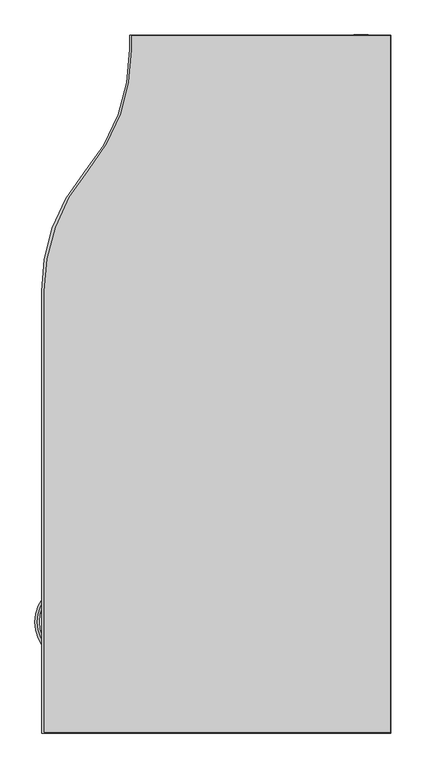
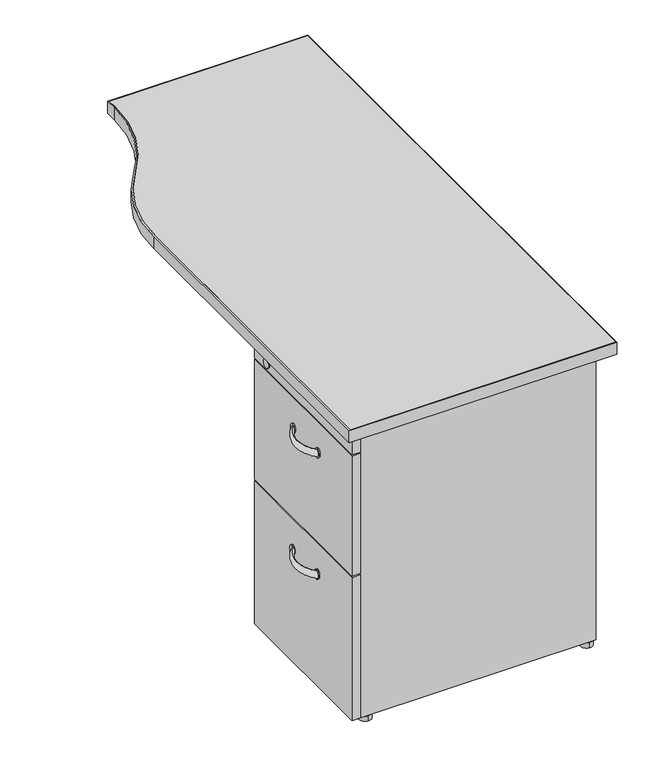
"""IFC4 building model written with IfcOpenShell, lengths in millimetres: furniture geometry, Steelcase - Kick Freestanding - Desk - Single Pedestal Transition Return - Partial Modesty Panel : 18D x 48W - Right - File/File."""

from ifc_helpers import new_model, si_unit, point, frame, frame_2d, origin, origin_with_axes, place, context, project, spatial, polyline, circle_curve, ellipse_curve, trimmed, segment, composite_curve, outline, extrude, source, transform, mapped, element, save
from ifc_brep_helpers import plane_surface, cylinder_surface, revolved_surface, extruded_surface, advanced_brep


def furniture_3ea152de(model_context):
    return source(origin(), model_context, "Body", "SolidModel", [
        advanced_brep(
        [(1567.1281641, -1621.6132511, 586.4818798), (1567.1281641, -1621.6132511, 569.2783404), (1567.7941808, -1522.4632386, 586.4818798), (1567.7941808, -1522.4632386, 569.2783404)],
        [
            (0, 1, ellipse_curve(frame((1567.1281641, -1621.6132511, 577.8801101), z_axis=(0.7327226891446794, -0.6805273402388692, 0.0), x_axis=(0.0, 0.0, -1.0)), 8.6017697, 3.6448177)),
            (1, 0, ellipse_curve(frame((1567.1281641, -1621.6132511, 577.8801101), z_axis=(0.7327226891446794, -0.6805273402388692, 0.0), x_axis=(0.0, 0.0, -1.0)), 8.6017697, 3.6448177)),
            (2, 3, ellipse_curve(frame((1567.7941808, -1522.4632386, 577.8801101), z_axis=(0.7417987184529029, 0.670622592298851, 0.0), x_axis=(0.0, 0.0, -1.0)), 8.6017697, 3.6448177)),
            (3, 2, ellipse_curve(frame((1567.7941808, -1522.4632386, 577.8801101), z_axis=(0.7417987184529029, 0.670622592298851, 0.0), x_axis=(0.0, 0.0, -1.0)), 8.6017697, 3.6448177)),
            (3, 1, circle_curve(frame((1612.8882961, -1572.3433908, 569.2783404), z_axis=(0.0, 0.0, 1.0), x_axis=(-0.6805273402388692, -0.7327226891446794, 0.0)), 67.2421655)),
            (0, 2, circle_curve(frame((1612.8882961, -1572.3433908, 586.4818798), z_axis=(0.0, 0.0, -1.0), x_axis=(-0.6805273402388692, -0.7327226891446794, 0.0)), 67.2421655)),
        ],
        [
            plane_surface(frame((1566.3645897, -1622.4353903, 0.0), z_axis=(0.7327226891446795, -0.6805273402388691, 0.0), x_axis=(0.0, 0.0, 1.0))),
            plane_surface(frame((1567.0417199, -1521.6309157, 0.0), z_axis=(0.7417987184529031, 0.6706225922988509, 0.0), x_axis=(0.0, 0.0, 1.0))),
            revolved_surface(trimmed(ellipse_curve(frame((1567.1281641, -1621.6132511, 577.8801101), z_axis=(0.7327226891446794, -0.6805273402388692, 0.0), x_axis=(0.0, 0.0, -1.0)), 8.6017697, 3.6448177), [point((1567.1281641, -1621.6132511, 586.4818798))], [point((1567.1281641, -1621.6132511, 569.2783404))], True, "CARTESIAN"), (1612.8882961, -1572.3433908, 0.0), (0.0, 0.0, -1.0)),
            revolved_surface(trimmed(ellipse_curve(frame((1567.1281641, -1621.6132511, 577.8801101), z_axis=(0.7327226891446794, -0.6805273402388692, 0.0), x_axis=(0.0, 0.0, -1.0)), 8.6017697, 3.6448177), [point((1567.1281641, -1621.6132511, 569.2783404))], [point((1567.1281641, -1621.6132511, 586.4818798))], True, "CARTESIAN"), (1612.8882961, -1572.3433908, 0.0), (0.0, 0.0, -1.0)),
        ],
        [
            (0, [[1, 2]]),
            (1, [[3, 4]]),
            (2, [[5, -1, 6, -4]]),
            (3, [[-6, -2, -5, -3]]),
        ],
    ),
        advanced_brep(
        [(1567.1281641, -1621.6132511, 293.5881298), (1567.1281641, -1621.6132511, 276.3845904), (1567.7941808, -1522.4632386, 293.5881298), (1567.7941808, -1522.4632386, 276.3845904)],
        [
            (0, 1, ellipse_curve(frame((1567.1281641, -1621.6132511, 284.9863601), z_axis=(0.7327226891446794, -0.6805273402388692, 0.0), x_axis=(0.0, 0.0, -1.0)), 8.6017697, 3.6448177)),
            (1, 0, ellipse_curve(frame((1567.1281641, -1621.6132511, 284.9863601), z_axis=(0.7327226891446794, -0.6805273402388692, 0.0), x_axis=(0.0, 0.0, -1.0)), 8.6017697, 3.6448177)),
            (2, 3, ellipse_curve(frame((1567.7941808, -1522.4632386, 284.9863601), z_axis=(0.7417987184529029, 0.670622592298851, 0.0), x_axis=(0.0, 0.0, -1.0)), 8.6017697, 3.6448177)),
            (3, 2, ellipse_curve(frame((1567.7941808, -1522.4632386, 284.9863601), z_axis=(0.7417987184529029, 0.670622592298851, 0.0), x_axis=(0.0, 0.0, -1.0)), 8.6017697, 3.6448177)),
            (3, 1, circle_curve(frame((1612.8882961, -1572.3433908, 276.3845904), z_axis=(0.0, 0.0, 1.0), x_axis=(-0.6805273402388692, -0.7327226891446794, 0.0)), 67.2421655)),
            (0, 2, circle_curve(frame((1612.8882961, -1572.3433908, 293.5881298), z_axis=(0.0, 0.0, -1.0), x_axis=(-0.6805273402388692, -0.7327226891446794, 0.0)), 67.2421655)),
        ],
        [
            plane_surface(frame((1566.3645897, -1622.4353903, 0.0), z_axis=(0.7327226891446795, -0.6805273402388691, 0.0), x_axis=(0.0, 0.0, 1.0))),
            plane_surface(frame((1567.0417199, -1521.6309157, 0.0), z_axis=(0.7417987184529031, 0.6706225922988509, 0.0), x_axis=(0.0, 0.0, 1.0))),
            revolved_surface(trimmed(ellipse_curve(frame((1567.1281641, -1621.6132511, 284.9863601), z_axis=(0.7327226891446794, -0.6805273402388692, 0.0), x_axis=(0.0, 0.0, -1.0)), 8.6017697, 3.6448177), [point((1567.1281641, -1621.6132511, 293.5881298))], [point((1567.1281641, -1621.6132511, 276.3845904))], True, "CARTESIAN"), (1612.8882961, -1572.3433908, 0.0), (0.0, 0.0, -1.0)),
            revolved_surface(trimmed(ellipse_curve(frame((1567.1281641, -1621.6132511, 284.9863601), z_axis=(0.7327226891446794, -0.6805273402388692, 0.0), x_axis=(0.0, 0.0, -1.0)), 8.6017697, 3.6448177), [point((1567.1281641, -1621.6132511, 276.3845904))], [point((1567.1281641, -1621.6132511, 293.5881298))], True, "CARTESIAN"), (1612.8882961, -1572.3433908, 0.0), (0.0, 0.0, -1.0)),
        ],
        [
            (0, [[1, 2]]),
            (1, [[3, 4]]),
            (2, [[5, -1, 6, -4]]),
            (3, [[-6, -2, -5, -3]]),
        ],
    ),
        advanced_brep(
        [(1564.8733086, -1429.0380273, 671.1566635), (1564.8733086, -1408.7180273, 671.1566635), (1567.9720601, -1429.0380273, 671.1566635), (1567.9720601, -1408.7180273, 671.1566635)],
        [
            (0, 1, circle_curve(frame((1564.8733086, -1418.8780273, 671.1566635), z_axis=(-1.0, 0.0, 0.0), x_axis=(0.0, 1.0, 0.0)), 10.16)),
            (1, 0, circle_curve(frame((1564.8733086, -1418.8780273, 671.1566635), z_axis=(-1.0, 0.0, 0.0), x_axis=(0.0, 1.0, 0.0)), 10.16)),
            (2, 3, circle_curve(frame((1567.9720601, -1418.8780273, 671.1566635), z_axis=(1.0, 0.0, 0.0), x_axis=(0.0, 1.0, 0.0)), 10.16)),
            (3, 2, circle_curve(frame((1567.9720601, -1418.8780273, 671.1566635), z_axis=(1.0, 0.0, 0.0), x_axis=(0.0, 1.0, 0.0)), 10.16)),
            (0, 2),
            (3, 1),
        ],
        [
            plane_surface(frame((1564.8733086, -1408.7180273, 671.1566635), z_axis=(-1.0, 0.0, 0.0), x_axis=(0.0, 0.0, -1.0))),
            plane_surface(frame((1567.9720601, -1408.7180273, 671.1566635), z_axis=(1.0, 0.0, 0.0), x_axis=(0.0, 0.0, 1.0))),
            cylinder_surface(frame((1567.9720601, -1418.8780273, 671.1566635), z_axis=(-1.0, 0.0, 0.0), x_axis=(0.0, 1.0, 0.0)), 10.16),
        ],
        [
            (0, [[1, 2]]),
            (1, [[3, 4]]),
            (2, [[-1, 5, -4, 6]]),
            (2, [[-2, -6, -3, -5]]),
        ],
    ),
        advanced_brep(
        [(1564.8733086, -1620.2140492, 589.4466513), (1564.8733086, -1620.2140492, 566.5866513), (1567.9720601, -1620.2140492, 589.4466513), (1567.9720601, -1620.2140492, 566.5866513)],
        [
            (0, 1, ellipse_curve(frame((1564.8733086, -1620.2140492, 578.0166513), z_axis=(-1.0, 0.0, 0.0), x_axis=(0.0, 0.0, -1.0)), 11.43, 8.0054005)),
            (1, 0, ellipse_curve(frame((1564.8733086, -1620.2140492, 578.0166513), z_axis=(-1.0, 0.0, 0.0), x_axis=(0.0, 0.0, -1.0)), 11.43, 8.0054005)),
            (2, 3, ellipse_curve(frame((1567.9720601, -1620.2140492, 578.0166513), z_axis=(1.0, 0.0, 0.0), x_axis=(0.0, 0.0, -1.0)), 11.43, 8.0054005)),
            (3, 2, ellipse_curve(frame((1567.9720601, -1620.2140492, 578.0166513), z_axis=(1.0, 0.0, 0.0), x_axis=(0.0, 0.0, -1.0)), 11.43, 8.0054005)),
            (0, 2),
            (3, 1),
        ],
        [
            plane_surface(frame((1564.8733086, -1408.7180273, 671.1566635), z_axis=(-1.0, 0.0, 0.0), x_axis=(0.0, 0.0, -1.0))),
            plane_surface(frame((1567.9720601, -1408.7180273, 671.1566635), z_axis=(1.0, 0.0, 0.0), x_axis=(0.0, 0.0, 1.0))),
            extruded_surface(trimmed(ellipse_curve(frame((1571.9598601, -1620.2140492, 578.0166513), z_axis=(-1.0, 0.0, 0.0), x_axis=(0.0, 0.0, -1.0)), 11.43, 8.0054005), [point((1571.9598601, -1620.2140492, 589.4466513))], [point((1571.9598601, -1620.2140492, 566.5866513))], True, "CARTESIAN"), (-3.098751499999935, 0.0, 0.0), 3.098751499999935),
            extruded_surface(trimmed(ellipse_curve(frame((1571.9598601, -1620.2140492, 578.0166513), z_axis=(-1.0, 0.0, 0.0), x_axis=(0.0, 0.0, -1.0)), 11.43, 8.0054005), [point((1571.9598601, -1620.2140492, 566.5866513))], [point((1571.9598601, -1620.2140492, 589.4466513))], True, "CARTESIAN"), (-3.098751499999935, 0.0, 0.0), 3.098751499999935),
        ],
        [
            (0, [[1, 2]]),
            (1, [[3, 4]]),
            (2, [[-1, 5, -4, 6]]),
            (3, [[-2, -6, -3, -5]]),
        ],
    ),
        advanced_brep(
        [(1564.8733086, -1522.8852323, 589.4466513), (1564.8733086, -1522.8852323, 566.5866513), (1567.9720601, -1522.8852323, 589.4466513), (1567.9720601, -1522.8852323, 566.5866513)],
        [
            (0, 1, ellipse_curve(frame((1564.8733086, -1522.8852323, 578.0166513), z_axis=(-1.0, 0.0, 0.0), x_axis=(0.0, 0.0, -1.0)), 11.43, 8.0054005)),
            (1, 0, ellipse_curve(frame((1564.8733086, -1522.8852323, 578.0166513), z_axis=(-1.0, 0.0, 0.0), x_axis=(0.0, 0.0, -1.0)), 11.43, 8.0054005)),
            (2, 3, ellipse_curve(frame((1567.9720601, -1522.8852323, 578.0166513), z_axis=(1.0, 0.0, 0.0), x_axis=(0.0, 0.0, -1.0)), 11.43, 8.0054005)),
            (3, 2, ellipse_curve(frame((1567.9720601, -1522.8852323, 578.0166513), z_axis=(1.0, 0.0, 0.0), x_axis=(0.0, 0.0, -1.0)), 11.43, 8.0054005)),
            (0, 2),
            (3, 1),
        ],
        [
            plane_surface(frame((1564.8733086, -1408.7180273, 671.1566635), z_axis=(-1.0, 0.0, 0.0), x_axis=(0.0, 0.0, -1.0))),
            plane_surface(frame((1567.9720601, -1408.7180273, 671.1566635), z_axis=(1.0, 0.0, 0.0), x_axis=(0.0, 0.0, 1.0))),
            extruded_surface(trimmed(ellipse_curve(frame((1571.9598601, -1522.8852323, 578.0166513), z_axis=(-1.0, 0.0, 0.0), x_axis=(0.0, 0.0, -1.0)), 11.43, 8.0054005), [point((1571.9598601, -1522.8852323, 589.4466513))], [point((1571.9598601, -1522.8852323, 566.5866513))], True, "CARTESIAN"), (-3.098751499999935, 0.0, 0.0), 3.098751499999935),
            extruded_surface(trimmed(ellipse_curve(frame((1571.9598601, -1522.8852323, 578.0166513), z_axis=(-1.0, 0.0, 0.0), x_axis=(0.0, 0.0, -1.0)), 11.43, 8.0054005), [point((1571.9598601, -1522.8852323, 566.5866513))], [point((1571.9598601, -1522.8852323, 589.4466513))], True, "CARTESIAN"), (-3.098751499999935, 0.0, 0.0), 3.098751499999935),
        ],
        [
            (0, [[1, 2]]),
            (1, [[3, 4]]),
            (2, [[-1, 5, -4, 6]]),
            (3, [[-2, -6, -3, -5]]),
        ],
    ),
        advanced_brep(
        [(1564.8733086, -1618.1551434, 296.0079573), (1564.8733086, -1618.1551434, 273.1479573), (1567.9720601, -1618.1551434, 296.0079573), (1567.9720601, -1618.1551434, 273.1479573)],
        [
            (0, 1, ellipse_curve(frame((1564.8733086, -1618.1551434, 284.5779573), z_axis=(-1.0, 0.0, 0.0), x_axis=(0.0, 0.0, -1.0)), 11.43, 8.0054005)),
            (1, 0, ellipse_curve(frame((1564.8733086, -1618.1551434, 284.5779573), z_axis=(-1.0, 0.0, 0.0), x_axis=(0.0, 0.0, -1.0)), 11.43, 8.0054005)),
            (2, 3, ellipse_curve(frame((1567.9720601, -1618.1551434, 284.5779573), z_axis=(1.0, 0.0, 0.0), x_axis=(0.0, 0.0, -1.0)), 11.43, 8.0054005)),
            (3, 2, ellipse_curve(frame((1567.9720601, -1618.1551434, 284.5779573), z_axis=(1.0, 0.0, 0.0), x_axis=(0.0, 0.0, -1.0)), 11.43, 8.0054005)),
            (0, 2),
            (3, 1),
        ],
        [
            plane_surface(frame((1564.8733086, -1408.7180273, 671.1566635), z_axis=(-1.0, 0.0, 0.0), x_axis=(0.0, 0.0, -1.0))),
            plane_surface(frame((1567.9720601, -1408.7180273, 671.1566635), z_axis=(1.0, 0.0, 0.0), x_axis=(0.0, 0.0, 1.0))),
            extruded_surface(trimmed(ellipse_curve(frame((1571.9598601, -1618.1551434, 284.5779573), z_axis=(-1.0, 0.0, 0.0), x_axis=(0.0, 0.0, -1.0)), 11.43, 8.0054005), [point((1571.9598601, -1618.1551434, 296.0079573))], [point((1571.9598601, -1618.1551434, 273.1479573))], True, "CARTESIAN"), (-3.098751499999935, 0.0, 0.0), 3.098751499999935),
            extruded_surface(trimmed(ellipse_curve(frame((1571.9598601, -1618.1551434, 284.5779573), z_axis=(-1.0, 0.0, 0.0), x_axis=(0.0, 0.0, -1.0)), 11.43, 8.0054005), [point((1571.9598601, -1618.1551434, 273.1479573))], [point((1571.9598601, -1618.1551434, 296.0079573))], True, "CARTESIAN"), (-3.098751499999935, 0.0, 0.0), 3.098751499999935),
        ],
        [
            (0, [[1, 2]]),
            (1, [[3, 4]]),
            (2, [[-1, 5, -4, 6]]),
            (3, [[-2, -6, -3, -5]]),
        ],
    ),
        advanced_brep(
        [(1564.8733086, -1520.8263266, 296.0079573), (1564.8733086, -1520.8263266, 273.1479573), (1567.9720601, -1520.8263266, 296.0079573), (1567.9720601, -1520.8263266, 273.1479573)],
        [
            (0, 1, ellipse_curve(frame((1564.8733086, -1520.8263266, 284.5779573), z_axis=(-1.0, 0.0, 0.0), x_axis=(0.0, 0.0, -1.0)), 11.43, 8.0054005)),
            (1, 0, ellipse_curve(frame((1564.8733086, -1520.8263266, 284.5779573), z_axis=(-1.0, 0.0, 0.0), x_axis=(0.0, 0.0, -1.0)), 11.43, 8.0054005)),
            (2, 3, ellipse_curve(frame((1567.9720601, -1520.8263266, 284.5779573), z_axis=(1.0, 0.0, 0.0), x_axis=(0.0, 0.0, -1.0)), 11.43, 8.0054005)),
            (3, 2, ellipse_curve(frame((1567.9720601, -1520.8263266, 284.5779573), z_axis=(1.0, 0.0, 0.0), x_axis=(0.0, 0.0, -1.0)), 11.43, 8.0054005)),
            (0, 2),
            (3, 1),
        ],
        [
            plane_surface(frame((1564.8733086, -1408.7180273, 671.1566635), z_axis=(-1.0, 0.0, 0.0), x_axis=(0.0, 0.0, -1.0))),
            plane_surface(frame((1567.9720601, -1408.7180273, 671.1566635), z_axis=(1.0, 0.0, 0.0), x_axis=(0.0, 0.0, 1.0))),
            extruded_surface(trimmed(ellipse_curve(frame((1571.9598601, -1520.8263266, 284.5779573), z_axis=(-1.0, 0.0, 0.0), x_axis=(0.0, 0.0, -1.0)), 11.43, 8.0054005), [point((1571.9598601, -1520.8263266, 296.0079573))], [point((1571.9598601, -1520.8263266, 273.1479573))], True, "CARTESIAN"), (-3.098751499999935, 0.0, 0.0), 3.098751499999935),
            extruded_surface(trimmed(ellipse_curve(frame((1571.9598601, -1520.8263266, 284.5779573), z_axis=(-1.0, 0.0, 0.0), x_axis=(0.0, 0.0, -1.0)), 11.43, 8.0054005), [point((1571.9598601, -1520.8263266, 273.1479573))], [point((1571.9598601, -1520.8263266, 296.0079573))], True, "CARTESIAN"), (-3.098751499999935, 0.0, 0.0), 3.098751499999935),
        ],
        [
            (0, [[1, 2]]),
            (1, [[3, 4]]),
            (2, [[-1, 5, -4, 6]]),
            (3, [[-2, -6, -3, -5]]),
        ],
    ),
        extrude(outline(polyline([(1567.9720601, -1752.7145982), (1567.9720601, -1367.7776054), (1587.9111086, -1367.7776054), (1587.9111086, -1752.7145982), (1567.9720601, -1752.7145982)])), frame((0.0, 0.0, 360.6545895), z_axis=(0.0, 0.0, 1.0), x_axis=(1.0, 0.0, 0.0)), (0.0, 0.0, 1.0), 288.9250242),
        extrude(outline(polyline([(1567.9720601, -1752.7145982), (1567.9720601, -1367.7776054), (1587.9111086, -1367.7776054), (1587.9111086, -1752.7145982), (1567.9720601, -1752.7145982)])), frame((0.0, 0.0, 12.7), z_axis=(0.0, 0.0, 1.0), x_axis=(1.0, 0.0, 0.0)), (0.0, 0.0, 1.0), 344.7796016),
        extrude(outline(polyline([(1567.9720601, -1752.7145982), (1567.9720601, -1367.7776054), (1587.9111086, -1367.7776054), (1587.9111086, -1752.7145982), (1567.9720601, -1752.7145982)])), frame((0.0, 0.0, 652.7545653), z_axis=(0.0, 0.0, 1.0), x_axis=(1.0, 0.0, 0.0)), (0.0, 0.0, 1.0), 40.6400339),
        extrude(outline(composite_curve([segment(trimmed(circle_curve(frame_2d((2110.0114425, -1740.1382652)), 13.97), [point((2110.0114425, -1754.1082652))], [point((2110.0114425, -1726.1682652))], False, "CARTESIAN"), True, "CONTINUOUS"), segment(trimmed(circle_curve(frame_2d((2110.0114425, -1740.1382652)), 13.97), [point((2110.0114425, -1726.1682652))], [point((2110.0114425, -1754.1082652))], False, "CARTESIAN"), True, "CONTINUOUS")], self_intersect=False)), origin_with_axes(), (0.0, 0.0, 1.0), 12.446),
        extrude(outline(composite_curve([segment(trimmed(circle_curve(frame_2d((1605.0594425, -1740.1382652)), 13.97), [point((1605.0594425, -1754.1082652))], [point((1605.0594425, -1726.1682652))], False, "CARTESIAN"), True, "CONTINUOUS"), segment(trimmed(circle_curve(frame_2d((1605.0594425, -1740.1382652)), 13.97), [point((1605.0594425, -1726.1682652))], [point((1605.0594425, -1754.1082652))], False, "CARTESIAN"), True, "CONTINUOUS")], self_intersect=False)), origin_with_axes(), (0.0, 0.0, 1.0), 12.446),
        extrude(outline(composite_curve([segment(trimmed(circle_curve(frame_2d((2110.0114425, -1380.4776054)), 13.97), [point((2110.0114425, -1394.4476054))], [point((2110.0114425, -1366.5076054))], False, "CARTESIAN"), True, "CONTINUOUS"), segment(trimmed(circle_curve(frame_2d((2110.0114425, -1380.4776054)), 13.97), [point((2110.0114425, -1366.5076054))], [point((2110.0114425, -1394.4476054))], False, "CARTESIAN"), True, "CONTINUOUS")], self_intersect=False)), origin_with_axes(), (0.0, 0.0, 1.0), 12.446),
        extrude(outline(composite_curve([segment(trimmed(circle_curve(frame_2d((1604.2584597, -1380.4776054)), 12.7), [point((1604.2584597, -1393.1776054))], [point((1604.2584597, -1367.7776054))], False, "CARTESIAN"), True, "CONTINUOUS"), segment(trimmed(circle_curve(frame_2d((1604.2584597, -1380.4776054)), 12.7), [point((1604.2584597, -1367.7776054))], [point((1604.2584597, -1393.1776054))], False, "CARTESIAN"), True, "CONTINUOUS")], self_intersect=False)), origin_with_axes(), (0.0, 0.0, 1.0), 12.446),
        extrude(outline(polyline([(2124.4860601, -1367.7776054), (2124.4860601, -1752.7145982), (1587.9111086, -1752.7145982), (1587.9111086, -1367.7776054), (2124.4860601, -1367.7776054)]), holes=[polyline([(2099.0860609, -1387.6149846), (1608.4850708, -1387.6149846), (1608.4850708, -1732.8771996), (2099.0860609, -1732.8771996), (2099.0860609, -1387.6149846)])]), frame((0.0, 0.0, 12.446), z_axis=(0.0, 0.0, 1.0), x_axis=(1.0, 0.0, 0.0)), (0.0, 0.0, 1.0), 682.498),
        extrude(outline(composite_curve([segment(polyline([(1707.9294594, -546.8145152), (2163.8594425, -546.8145152), (2163.8594425, -1766.0145152), (1554.2594425, -1766.0145152), (1554.2594425, -994.1085152)]), True, "CONTINUOUS"), segment(trimmed(circle_curve(frame_2d((1864.0239413, -987.7058619)), 309.8306613), [point((1554.2594425, -994.1085152))], [point((1628.457587, -786.4509703))], False, "CARTESIAN"), True, "CONTINUOUS"), segment(trimmed(circle_curve(frame_2d((1376.3728371, -571.0836731)), 331.5566223), [point((1628.457587, -786.4509703))], [point((1707.9294594, -571.0836731))], True, "CARTESIAN"), True, "CONTINUOUS"), segment(polyline([(1707.9294594, -571.0836731), (1707.9294594, -546.8145152)]), True, "CONTINUOUS")], self_intersect=False), holes=[composite_curve([segment(polyline([(1710.9012257, -547.8051152), (1710.9012257, -572.1320079)]), True, "CONTINUOUS"), segment(trimmed(circle_curve(frame_2d((1386.0725345, -574.5942763)), 324.8380233), [point((1710.9012257, -572.1320079))], [point((1635.1600947, -783.1011797))], False, "CARTESIAN"), True, "CONTINUOUS"), segment(trimmed(circle_curve(frame_2d((1887.2347336, -994.1085152)), 328.7335079), [point((1635.1600947, -783.1011797))], [point((1558.5012257, -994.1085152))], True, "CARTESIAN"), True, "CONTINUOUS"), segment(polyline([(1558.5012257, -994.1085152), (1558.5012257, -1764.2619332), (2162.8688425, -1764.2619332), (2162.8688425, -547.8051152), (1710.9012257, -547.8051152)]), True, "CONTINUOUS")], self_intersect=False)]), frame((0.0, 0.0, 694.944), z_axis=(0.0, 0.0, 1.0), x_axis=(1.0, 0.0, 0.0)), (0.0, 0.0, 1.0), 28.956),
        extrude(outline(composite_curve([segment(polyline([(2162.8688425, -547.8051152), (2162.8688425, -1764.2619332), (1558.5012257, -1764.2619332), (1558.5012257, -994.1085152)]), True, "CONTINUOUS"), segment(trimmed(circle_curve(frame_2d((1887.2347336, -994.1085152)), 328.7335079), [point((1558.5012257, -994.1085152))], [point((1635.1600947, -783.1011797))], False, "CARTESIAN"), True, "CONTINUOUS"), segment(trimmed(circle_curve(frame_2d((1386.0725345, -574.5942763)), 324.8380233), [point((1635.1600947, -783.1011797))], [point((1710.9012257, -572.1320079))], True, "CARTESIAN"), True, "CONTINUOUS"), segment(polyline([(1710.9012257, -572.1320079), (1710.9012257, -547.8051152), (2162.8688425, -547.8051152)]), True, "CONTINUOUS")], self_intersect=False)), frame((0.0, 0.0, 694.944), z_axis=(0.0, 0.0, 1.0), x_axis=(1.0, 0.0, 0.0)), (0.0, 0.0, 1.0), 28.956),
        extrude(outline(polyline([(2099.0860609, -546.0525152), (2124.4860601, -546.0525152), (2124.4860601, -1367.7776054), (2099.0860609, -1367.7776054), (2099.0860609, -546.0525152)])), frame((0.0, 0.0, 390.144), z_axis=(0.0, 0.0, 1.0), x_axis=(1.0, 0.0, 0.0)), (0.0, 0.0, 1.0), 304.8),
    ])


if __name__ == "__main__":
    model = new_model("IFC4")
    model_context = context("Model", 3, world=origin())
    ifc_project = project(units=[si_unit("LENGTHUNIT", "METRE", prefix="MILLI")], contexts=[model_context])
    site = spatial("IfcSite", under=ifc_project)
    building = spatial("IfcBuilding", under=site)
    placement = place(None, origin())
    furniture_shape = furniture_3ea152de(model_context)
    element("IfcFurniture", 1, ObjectType="Steelcase - Kick Freestanding - Desk - Single Pedestal Transition Return - Partial Modesty Panel : 18D x 48W - Right - File/File", at=placement, inside=building, context=model_context, shape_type="MappedRepresentation", body=[
        mapped(furniture_shape, transform((0.0, 0.0, 0.0), x_axis=(1.0, 0.0, 0.0), y_axis=(0.0, 1.0, 0.0), z_axis=(0.0, 0.0, 1.0))),
    ])
    save(model, "model.ifc")
